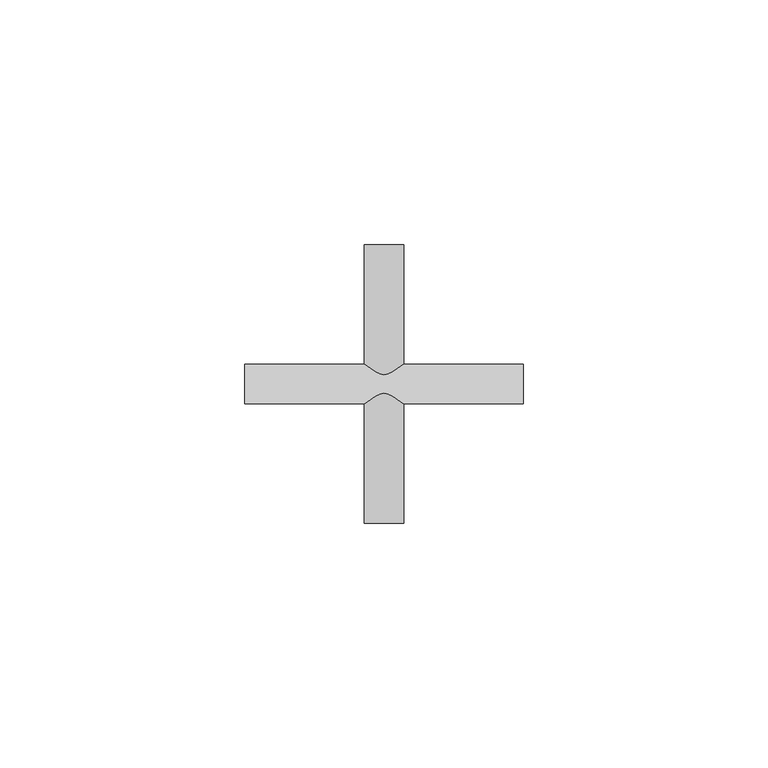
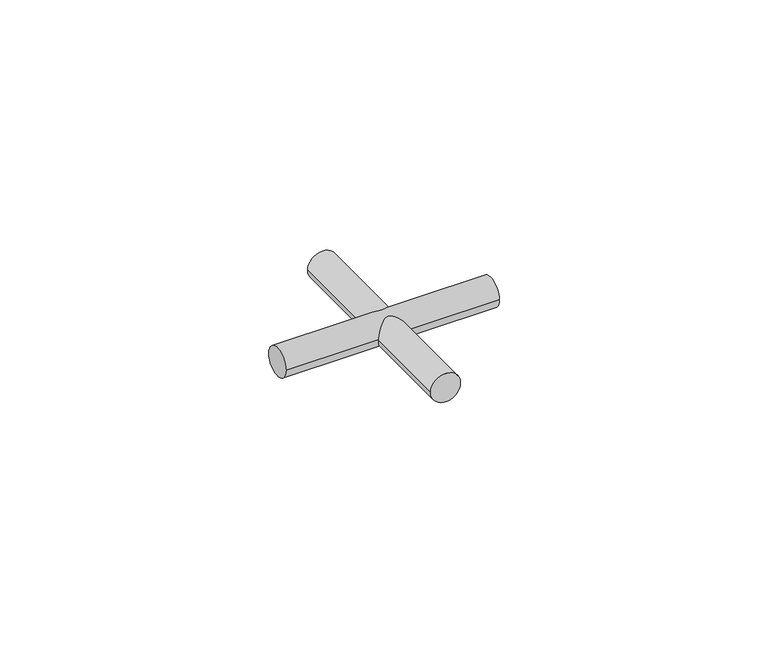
"""IFC4 building model written with IfcOpenShell, lengths in millimetres: duct fitting geometry, КНС_Крестовина_Пруток_Неспецифицируемое_DKC : NG3104CU_NG3109CU_Медь."""

from ifc_helpers import new_model, si_unit, point, frame, origin, origin_2d, place, context, project, spatial, circle_curve, trimmed, segment, composite_curve, outline, extrude, source, transform, mapped, element, save


def duct_fitting_3ef68fe0(model_context):
    return source(origin(), model_context, "Body", "SweptSolid", [
        extrude(outline(composite_curve([segment(trimmed(circle_curve(origin_2d(), 4.0), [point((-4.0, 0.0))], [point((4.0, 0.0))], False, "CARTESIAN"), True, "CONTINUOUS"), segment(trimmed(circle_curve(origin_2d(), 4.0), [point((4.0, 0.0))], [point((-4.0, 0.0))], False, "CARTESIAN"), True, "CONTINUOUS")], self_intersect=False)), frame((-28.5, 0.0, 0.0), z_axis=(1.0, 0.0, 0.0), x_axis=(0.0, 1.0, 0.0)), (0.0, 0.0, 1.0), 57.0),
        extrude(outline(composite_curve([segment(trimmed(circle_curve(origin_2d(), 4.0), [point((0.0, -4.0))], [point((0.0, 4.0))], False, "CARTESIAN"), True, "CONTINUOUS"), segment(trimmed(circle_curve(origin_2d(), 4.0), [point((0.0, 4.0))], [point((0.0, -4.0))], False, "CARTESIAN"), True, "CONTINUOUS")], self_intersect=False)), frame((0.0, -28.5, 0.0), z_axis=(0.0, 1.0, 0.0), x_axis=(0.0, 0.0, 1.0)), (0.0, 0.0, 1.0), 57.0),
    ])


if __name__ == "__main__":
    model = new_model("IFC4")
    model_context = context("Model", 3, world=origin())
    ifc_project = project(units=[si_unit("LENGTHUNIT", "METRE", prefix="MILLI")], contexts=[model_context])
    site = spatial("IfcSite", under=ifc_project)
    building = spatial("IfcBuilding", under=site)
    placement = place(None, origin())
    duct_fitting_shape = duct_fitting_3ef68fe0(model_context)
    element("IfcDuctFitting", 1, ObjectType="КНС_Крестовина_Пруток_Неспецифицируемое_DKC : NG3104CU_NG3109CU_Медь", at=placement, inside=building, context=model_context, shape_type="MappedRepresentation", body=[
        mapped(duct_fitting_shape, transform((0.0, 0.0, 0.0), x_axis=(1.0, 0.0, 0.0), y_axis=(0.0, 1.0, 0.0), z_axis=(0.0, 0.0, 1.0))),
    ])
    save(model, "model.ifc")
